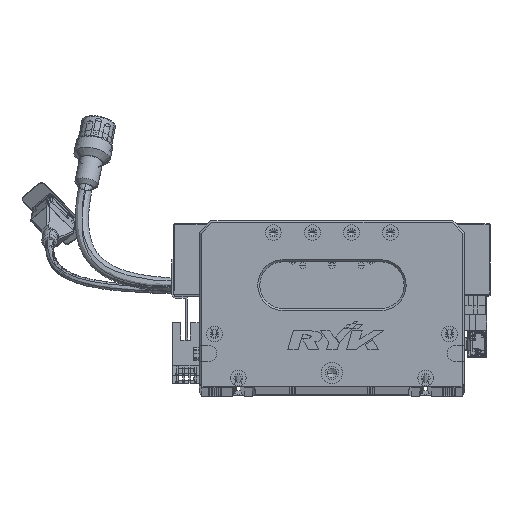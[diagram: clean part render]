
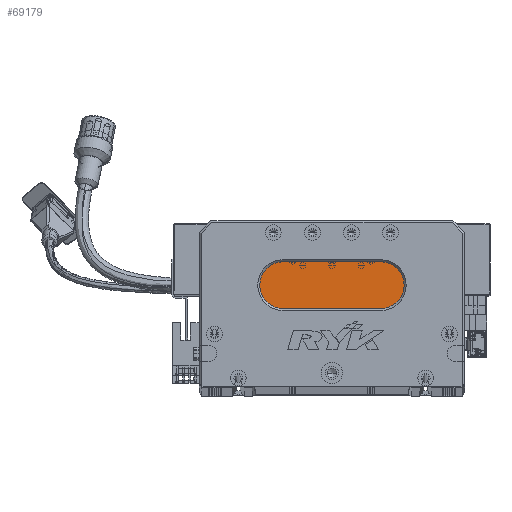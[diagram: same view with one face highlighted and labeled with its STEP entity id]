
A CAD part, top view. The second image highlights one B-rep face of the part: STEP entity #69179.
In plain terms, the highlighted planar face has unit normal (0, 0, 1) as drawn and (0, 0, -1) by its records, which use the part's own axes.
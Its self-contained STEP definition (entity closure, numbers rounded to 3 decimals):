
#657 = DIRECTION ( 'NONE',  ( -1., 0., 0. ) ) ;
#4188 = VERTEX_POINT ( 'NONE', #46128 ) ;
#5555 = AXIS2_PLACEMENT_3D ( 'NONE', #56606, #37774, #47860 ) ;
#6816 = DIRECTION ( 'NONE',  ( -1., 0., 0. ) ) ;
#9342 = DIRECTION ( 'NONE',  ( 1., 0., 0. ) ) ;
#16287 = EDGE_CURVE ( 'NONE', #4188, #119062, #56032, .T. ) ;
#16507 = LINE ( 'NONE', #30726, #39859 ) ;
#17175 = CARTESIAN_POINT ( 'NONE',  ( 43., 52., 13. ) ) ;
#17915 = EDGE_CURVE ( 'NONE', #86059, #78131, #25982, .T. ) ;
#20147 = CARTESIAN_POINT ( 'NONE',  ( 31., 52., 13. ) ) ;
#23024 = ORIENTED_EDGE ( 'NONE', *, *, #16287, .T. ) ;
#25982 = CIRCLE ( 'NONE', #81542, 12. ) ;
#26438 = CIRCLE ( 'NONE', #5555, 12. ) ;
#30726 = CARTESIAN_POINT ( 'NONE',  ( 93., 40., 13. ) ) ;
#31566 = DIRECTION ( 'NONE',  ( -1., 0., 0. ) ) ;
#32852 = FACE_OUTER_BOUND ( 'NONE', #119689, .T. ) ;
#33307 = CARTESIAN_POINT ( 'NONE',  ( 93., 40., 13. ) ) ;
#37774 = DIRECTION ( 'NONE',  ( 0., 0., -1. ) ) ;
#39117 = CARTESIAN_POINT ( 'NONE',  ( 93., 64., 13. ) ) ;
#39859 = VECTOR ( 'NONE', #31566, 1000. ) ;
#40241 = CARTESIAN_POINT ( 'NONE',  ( 93., 52., 13. ) ) ;
#44855 = ORIENTED_EDGE ( 'NONE', *, *, #63658, .T. ) ;
#46128 = CARTESIAN_POINT ( 'NONE',  ( 43., 64., 13. ) ) ;
#47860 = DIRECTION ( 'NONE',  ( -1., 0., 0. ) ) ;
#51674 = CIRCLE ( 'NONE', #54402, 12. ) ;
#51988 = EDGE_CURVE ( 'NONE', #78131, #4188, #26438, .T. ) ;
#52680 = ORIENTED_EDGE ( 'NONE', *, *, #51988, .T. ) ;
#54402 = AXIS2_PLACEMENT_3D ( 'NONE', #40241, #81082, #657 ) ;
#56032 = LINE ( 'NONE', #128408, #114991 ) ;
#56606 = CARTESIAN_POINT ( 'NONE',  ( 43., 52., 13. ) ) ;
#63658 = EDGE_CURVE ( 'NONE', #87029, #86059, #16507, .T. ) ;
#69179 = ADVANCED_FACE ( 'NONE', ( #32852 ), #125436, .T. ) ;
#76058 = DIRECTION ( 'NONE',  ( 0., 0., -1. ) ) ;
#78131 = VERTEX_POINT ( 'NONE', #20147 ) ;
#81082 = DIRECTION ( 'NONE',  ( 0., 0., -1. ) ) ;
#81542 = AXIS2_PLACEMENT_3D ( 'NONE', #17175, #85076, #85503 ) ;
#84484 = ORIENTED_EDGE ( 'NONE', *, *, #127435, .T. ) ;
#85076 = DIRECTION ( 'NONE',  ( 0., 0., -1. ) ) ;
#85503 = DIRECTION ( 'NONE',  ( -1., 0., 0. ) ) ;
#86059 = VERTEX_POINT ( 'NONE', #112230 ) ;
#87029 = VERTEX_POINT ( 'NONE', #33307 ) ;
#105000 = AXIS2_PLACEMENT_3D ( 'NONE', #125864, #76058, #6816 ) ;
#105335 = ORIENTED_EDGE ( 'NONE', *, *, #17915, .T. ) ;
#112230 = CARTESIAN_POINT ( 'NONE',  ( 43., 40., 13. ) ) ;
#114991 = VECTOR ( 'NONE', #9342, 1000. ) ;
#119062 = VERTEX_POINT ( 'NONE', #39117 ) ;
#119689 = EDGE_LOOP ( 'NONE', ( #84484, #44855, #105335, #52680, #23024 ) ) ;
#125436 = PLANE ( 'NONE',  #105000 ) ;
#125864 = CARTESIAN_POINT ( 'NONE',  ( 93., 52., 13. ) ) ;
#127435 = EDGE_CURVE ( 'NONE', #119062, #87029, #51674, .T. ) ;
#128408 = CARTESIAN_POINT ( 'NONE',  ( 93., 64., 13. ) ) ;
